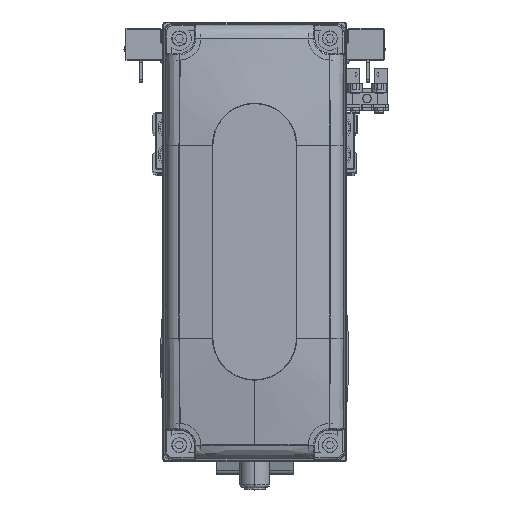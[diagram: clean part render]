
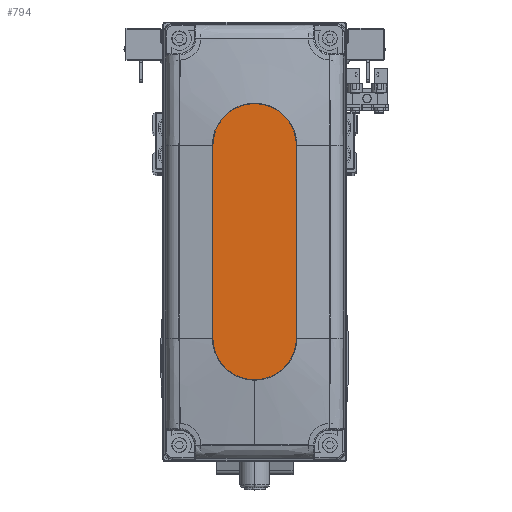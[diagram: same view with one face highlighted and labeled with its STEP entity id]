
A CAD part, top view. The second image highlights one B-rep face of the part: STEP entity #794.
In plain terms, the highlighted planar face has unit normal (0, 0, 1).
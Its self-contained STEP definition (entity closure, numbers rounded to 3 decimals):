
#794 = ADVANCED_FACE ( 'NONE', ( #26023 ), #39944, .T. ) ;
#2638 = CARTESIAN_POINT ( 'NONE',  ( -32., -14., 35. ) ) ;
#6291 = DIRECTION ( 'NONE',  ( -1., 0., 0. ) ) ;
#6496 = CARTESIAN_POINT ( 'NONE',  ( -32., 14., 35. ) ) ;
#6966 = CIRCLE ( 'NONE', #32491, 14. ) ;
#7331 = EDGE_LOOP ( 'NONE', ( #20200, #14820, #33840, #8375, #23996 ) ) ;
#8330 = DIRECTION ( 'NONE',  ( 1., 0., 0. ) ) ;
#8375 = ORIENTED_EDGE ( 'NONE', *, *, #19473, .T. ) ;
#8686 = CARTESIAN_POINT ( 'NONE',  ( 0., 0., 35. ) ) ;
#9087 = CARTESIAN_POINT ( 'NONE',  ( 32., 14., 35. ) ) ;
#14820 = ORIENTED_EDGE ( 'NONE', *, *, #40926, .T. ) ;
#14833 = CIRCLE ( 'NONE', #40340, 14. ) ;
#15418 = CARTESIAN_POINT ( 'NONE',  ( 32., 0., 35. ) ) ;
#15726 = VERTEX_POINT ( 'NONE', #16738 ) ;
#16469 = CARTESIAN_POINT ( 'NONE',  ( -32., 0., 35. ) ) ;
#16500 = VERTEX_POINT ( 'NONE', #9087 ) ;
#16578 = DIRECTION ( 'NONE',  ( 1., 0., 0. ) ) ;
#16738 = CARTESIAN_POINT ( 'NONE',  ( -32., -14., 35. ) ) ;
#17460 = VECTOR ( 'NONE', #6291, 1000. ) ;
#18247 = CARTESIAN_POINT ( 'NONE',  ( 32., -14., 35. ) ) ;
#19473 = EDGE_CURVE ( 'NONE', #26263, #21629, #39592, .T. ) ;
#19914 = AXIS2_PLACEMENT_3D ( 'NONE', #15418, #29333, #43264 ) ;
#20200 = ORIENTED_EDGE ( 'NONE', *, *, #33710, .T. ) ;
#21629 = VERTEX_POINT ( 'NONE', #31264 ) ;
#22611 = DIRECTION ( 'NONE',  ( 0., 0., 1. ) ) ;
#23643 = LINE ( 'NONE', #37569, #17460 ) ;
#23996 = ORIENTED_EDGE ( 'NONE', *, *, #31312, .T. ) ;
#24697 = EDGE_CURVE ( 'NONE', #15726, #26263, #33930, .T. ) ;
#25669 = VERTEX_POINT ( 'NONE', #6496 ) ;
#25684 = CARTESIAN_POINT ( 'NONE',  ( 32., 0., 35. ) ) ;
#26023 = FACE_OUTER_BOUND ( 'NONE', #7331, .T. ) ;
#26263 = VERTEX_POINT ( 'NONE', #18247 ) ;
#29333 = DIRECTION ( 'NONE',  ( 0., 0., 1. ) ) ;
#30391 = DIRECTION ( 'NONE',  ( 0., 0., 1. ) ) ;
#31264 = CARTESIAN_POINT ( 'NONE',  ( 46., 0., 35. ) ) ;
#31312 = EDGE_CURVE ( 'NONE', #21629, #16500, #14833, .T. ) ;
#32491 = AXIS2_PLACEMENT_3D ( 'NONE', #16469, #30391, #44332 ) ;
#33710 = EDGE_CURVE ( 'NONE', #16500, #25669, #23643, .T. ) ;
#33840 = ORIENTED_EDGE ( 'NONE', *, *, #24697, .T. ) ;
#33930 = LINE ( 'NONE', #2638, #37900 ) ;
#36532 = DIRECTION ( 'NONE',  ( 1., 0., 0. ) ) ;
#37569 = CARTESIAN_POINT ( 'NONE',  ( -32., 14., 35. ) ) ;
#37900 = VECTOR ( 'NONE', #16578, 1000. ) ;
#39591 = DIRECTION ( 'NONE',  ( 0., 0., 1. ) ) ;
#39592 = CIRCLE ( 'NONE', #19914, 14. ) ;
#39944 = PLANE ( 'NONE',  #41709 ) ;
#40340 = AXIS2_PLACEMENT_3D ( 'NONE', #25684, #39591, #8330 ) ;
#40926 = EDGE_CURVE ( 'NONE', #25669, #15726, #6966, .T. ) ;
#41709 = AXIS2_PLACEMENT_3D ( 'NONE', #8686, #22611, #36532 ) ;
#43264 = DIRECTION ( 'NONE',  ( 1., 0., 0. ) ) ;
#44332 = DIRECTION ( 'NONE',  ( 1., 0., 0. ) ) ;
